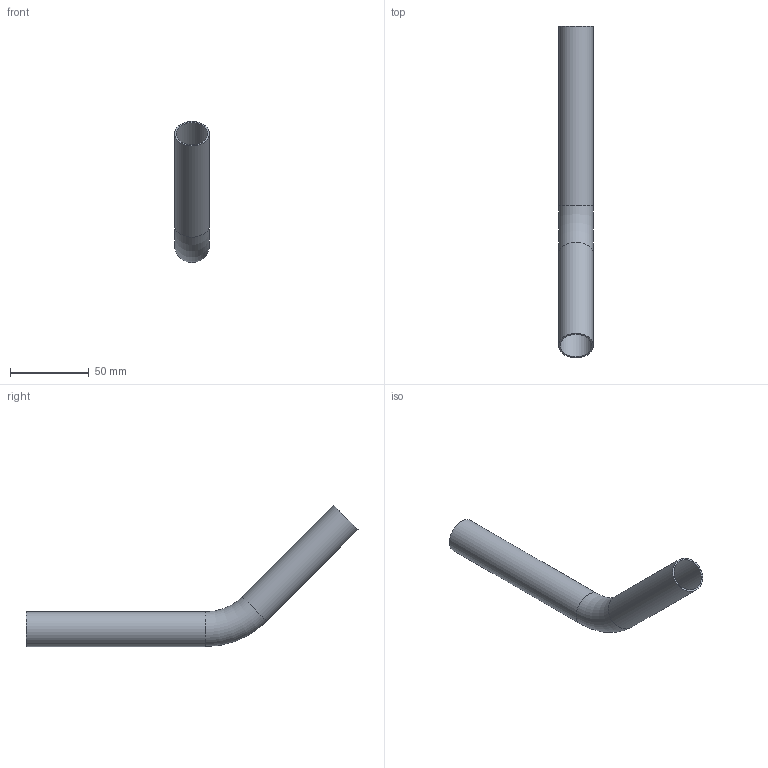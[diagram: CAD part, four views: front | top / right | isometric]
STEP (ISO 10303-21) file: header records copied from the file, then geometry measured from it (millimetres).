
FILE_DESCRIPTION(('STEP AP203'), '1');
FILE_NAME('ÂÐ.747111.011 - VTi.955.I.452222 Îòâîä 45 ãð. d22 (100õ132)', '', ('UNSPECIFIED'), ('UNSPECIFIED'), 'C3D Converter', 'C3D Toolkit', '');
FILE_SCHEMA(('CONFIG_CONTROL_DESIGN'));
Length unit declared in the file: millimetre
Products named in the file (1): ВР.747111.011
Bounding box: 22 x 210.49 x 89.49 mm (x, y, z)
Volume: 15180.9 mm3; surface area: 30493.8 mm2
Topology: 1 solids, 1 shells, 8 faces, 14 edges, 8 vertices
Faces by surface type: cylinder 4, torus 2, plane 2
Full cylindrical faces by diameter (mm): 20 x2, 22 x2
Entity records: 208 total; most frequent: DIRECTION 34, CARTESIAN_POINT 25, AXIS2_PLACEMENT_3D 17, EDGE_LOOP 16, ORIENTED_EDGE 16, FACE_OUTER_BOUND 12, ADVANCED_FACE 8, EDGE_CURVE 8
